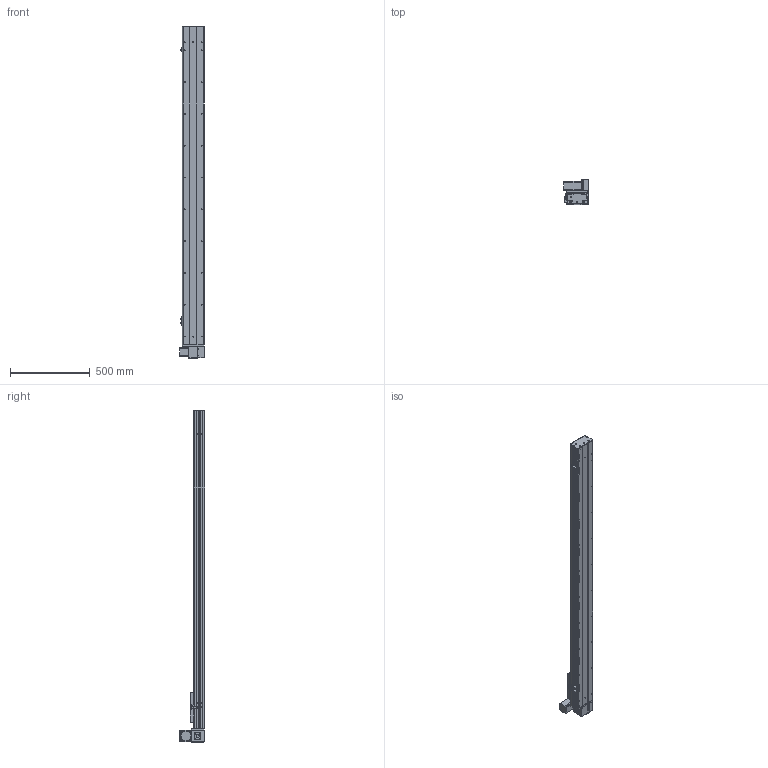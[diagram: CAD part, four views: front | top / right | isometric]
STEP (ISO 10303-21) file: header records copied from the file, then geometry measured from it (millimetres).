
FILE_DESCRIPTION (( 'STEP AP203' ), '1' );
FILE_NAME ('Y135CB-D90-S1700-UL-P400W.STEP', '2020-02-18T07:42:32', ( '微软用户' ), ( '微软中国' ), 'SwSTEP 2.0', 'SolidWorks 2017', '' );
FILE_SCHEMA (( 'CONFIG_CONTROL_DESIGN' ));
Length unit declared in the file: millimetre
Products named in the file (18): Y135C-陔俋离換覜結え-; 0B-埴倛裔啣; 5C--俋欶; 0B-源倛裔啣; C-雄赽釱--; 0B-萇儂楊擘啣; Y10B-耜蚾蟀諉啣----; san松下电机400不带刹车----; Y135CB-D90-S1700-UL-P400W; 00B-俋欶BM--; 5CB --掛极耜裔啣-; Y10B--々湍喘謫眊--666; C-詩湍揤踡え-陔; Y135CB-耜裔; 135CB--詩湍-CE; 135CB---遴掛极.-; Y100-135俋离換覜ん--; 35CB---喘謫眊楊擘啣
Assembly tree (21 placements, depth 2):
  Y135CB-D90-S1700-UL-P400W
    Y135CB-耜裔
    135CB---遴掛极.-
    35CB---喘謫眊楊擘啣
    0B-埴倛裔啣
    0B-源倛裔啣
    0B-萇儂楊擘啣
    san松下电机400不带刹车----
    5CB --掛极耜裔啣-  x2
    C-詩湍揤踡え-陔  x2
    135CB--詩湍-CE
    Y100-135俋离換覜ん--  x3
    Y135C-陔俋离換覜結え-
    5C--俋欶
    C-雄赽釱--
    Y10B-耜蚾蟀諉啣----
    00B-俋欶BM--
    Y10B--々湍喘謫眊--666
Bounding box: 157 x 158.7 x 2088 mm (x, y, z)
Volume: 6204176.7 mm3; surface area: 2446037.4 mm2
Topology: 21 solids, 21 shells, 961 faces, 2599 edges, 1722 vertices
Faces by surface type: cylinder 489, plane 456, cone 16
Entity records: 30157 total; most frequent: DIRECTION 5011, CARTESIAN_POINT 4988, ORIENTED_EDGE 4674, EDGE_CURVE 2337, AXIS2_PLACEMENT_3D 1833, VERTEX_POINT 1550, LINE 1345, VECTOR 1345
